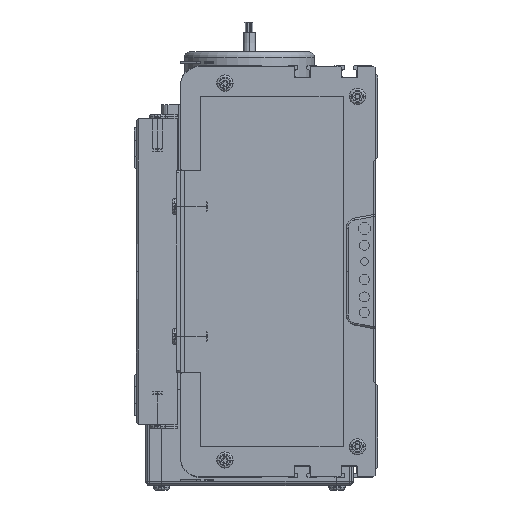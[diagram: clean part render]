
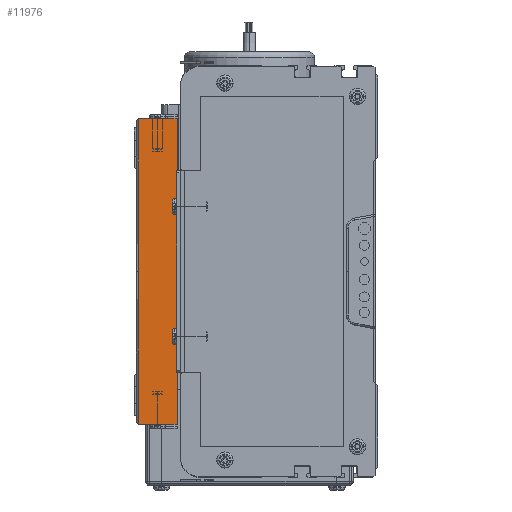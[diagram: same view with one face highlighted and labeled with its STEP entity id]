
A CAD part, left-side view. The second image highlights one B-rep face of the part: STEP entity #11976.
In plain terms, the highlighted planar face has unit normal (-1, 0, 0).
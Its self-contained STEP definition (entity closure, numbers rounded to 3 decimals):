
#11976 = ADVANCED_FACE ( 'NONE', ( #118785 ), #118790, .F. ) ;
#12044 = ORIENTED_EDGE ( 'NONE', *, *, #121812, .T. ) ;
#12055 = VERTEX_POINT ( 'NONE', #118621 ) ;
#12142 = ORIENTED_EDGE ( 'NONE', *, *, #121871, .F. ) ;
#12144 = VERTEX_POINT ( 'NONE', #119298 ) ;
#12220 = ORIENTED_EDGE ( 'NONE', *, *, #135748, .T. ) ;
#12224 = EDGE_CURVE ( 'NONE', #12144, #12055, #119090, .T. ) ;
#12296 = ORIENTED_EDGE ( 'NONE', *, *, #139043, .T. ) ;
#12319 = ORIENTED_EDGE ( 'NONE', *, *, #12224, .T. ) ;
#13879 = DIRECTION ( 'NONE',  ( 0., 0., -1. ) ) ;
#13883 = LINE ( 'NONE', #13901, #13900 ) ;
#13900 = VECTOR ( 'NONE', #13879, 1000. ) ;
#13901 = CARTESIAN_POINT ( 'NONE',  ( 0., 19., 0. ) ) ;
#14571 = EDGE_LOOP ( 'NONE', ( #12142, #12220, #12319, #12296, #12044 ) ) ;
#94198 = CARTESIAN_POINT ( 'NONE',  ( 0., 19., 75. ) ) ;
#97774 = CARTESIAN_POINT ( 'NONE',  ( 0., 0., -75. ) ) ;
#98010 = DIRECTION ( 'NONE',  ( 0., 0., 1. ) ) ;
#98013 = VECTOR ( 'NONE', #98010, 1000. ) ;
#98014 = CARTESIAN_POINT ( 'NONE',  ( 0., 0., 0. ) ) ;
#98020 = LINE ( 'NONE', #98014, #98013 ) ;
#98984 = CARTESIAN_POINT ( 'NONE',  ( 0., 0., 75. ) ) ;
#99281 = DIRECTION ( 'NONE',  ( 0., -1., 0. ) ) ;
#99282 = VECTOR ( 'NONE', #99281, 1000. ) ;
#99291 = CARTESIAN_POINT ( 'NONE',  ( 0., 20., 75. ) ) ;
#99300 = LINE ( 'NONE', #99291, #99282 ) ;
#118621 = CARTESIAN_POINT ( 'NONE',  ( 0., 19., -75. ) ) ;
#118711 = DIRECTION ( 'NONE',  ( 0., 0., -1. ) ) ;
#118712 = DIRECTION ( 'NONE',  ( 1., 0., 0. ) ) ;
#118716 = CARTESIAN_POINT ( 'NONE',  ( 0., 20., 0. ) ) ;
#118776 = AXIS2_PLACEMENT_3D ( 'NONE', #118716, #118712, #118711 ) ;
#118785 = FACE_OUTER_BOUND ( 'NONE', #14571, .T. ) ;
#118790 = PLANE ( 'NONE',  #118776 ) ;
#119085 = DIRECTION ( 'NONE',  ( 0., 0., -1. ) ) ;
#119086 = VECTOR ( 'NONE', #119085, 1000. ) ;
#119087 = CARTESIAN_POINT ( 'NONE',  ( 0., 19., 0. ) ) ;
#119090 = LINE ( 'NONE', #119087, #119086 ) ;
#119298 = CARTESIAN_POINT ( 'NONE',  ( 0., 19., 0. ) ) ;
#121691 = VERTEX_POINT ( 'NONE', #94198 ) ;
#121802 = VERTEX_POINT ( 'NONE', #97774 ) ;
#121812 = EDGE_CURVE ( 'NONE', #121802, #121836, #98020, .T. ) ;
#121836 = VERTEX_POINT ( 'NONE', #98984 ) ;
#121871 = EDGE_CURVE ( 'NONE', #121691, #121836, #99300, .T. ) ;
#131943 = DIRECTION ( 'NONE',  ( 0., -1., 0. ) ) ;
#131944 = VECTOR ( 'NONE', #131943, 1000. ) ;
#131946 = CARTESIAN_POINT ( 'NONE',  ( 0., 20., -75. ) ) ;
#131947 = LINE ( 'NONE', #131946, #131944 ) ;
#135748 = EDGE_CURVE ( 'NONE', #121691, #12144, #13883, .T. ) ;
#139043 = EDGE_CURVE ( 'NONE', #12055, #121802, #131947, .T. ) ;
